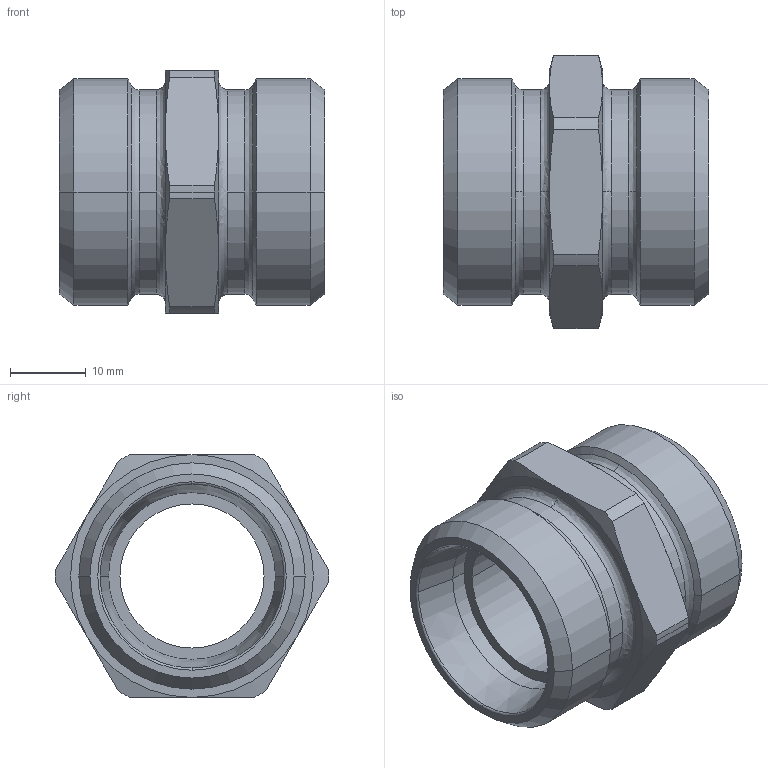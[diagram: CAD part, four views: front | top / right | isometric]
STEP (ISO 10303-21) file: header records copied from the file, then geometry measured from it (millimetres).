
FILE_DESCRIPTION((''),'2;1');
FILE_NAME('103510.stp','2007-10-31T11:34:06',(''),(''),'AutoCAD STEP 2000i','AutoCAD 2000i',', , ');
FILE_SCHEMA(('CONFIG_CONTROL_DESIGN'));
Length unit declared in the file: millimetre
Products named in the file (2): 103510.0; CHIAVE SMUSSATA#0
Assembly tree (1 placements, depth 2):
  103510.0
    CHIAVE SMUSSATA#0
Bounding box: 35 x 36 x 32 mm (x, y, z)
Volume: 12466.5 mm3; surface area: 6686 mm2
Topology: 1 solids, 1 shells, 70 faces, 172 edges, 108 vertices
Faces by surface type: cone 24, cylinder 22, plane 12, bspline 8, torus 4
Entity records: 2513 total; most frequent: CARTESIAN_POINT 752, DIRECTION 384, ORIENTED_EDGE 344, AXIS2_PLACEMENT_3D 172, EDGE_CURVE 172, VERTEX_POINT 108, CIRCLE 108, EDGE_LOOP 76
